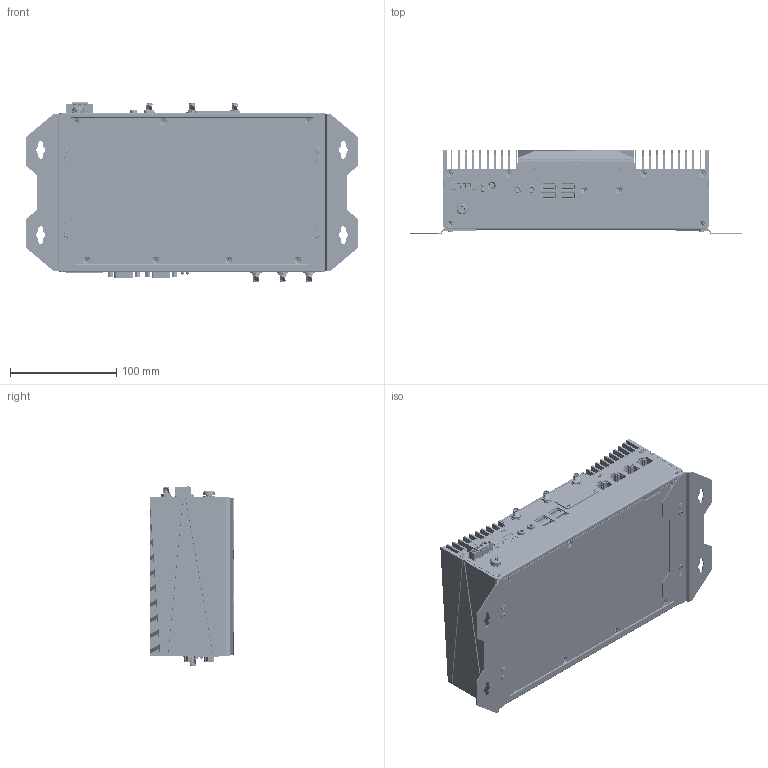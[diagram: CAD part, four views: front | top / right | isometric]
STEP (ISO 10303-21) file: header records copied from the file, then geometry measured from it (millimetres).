
FILE_DESCRIPTION((''),'2;1');
FILE_NAME('V2403C','2021-10-01T11:12:49',('VicWM_Chen'),('PTC'),'CREO PARAMETRIC BY PTC INC, 2018020','CREO PARAMETRIC BY PTC INC, 2018020','');
FILE_SCHEMA(('AUTOMOTIVE_DESIGN { 1 0 10303 214 1 1 1 1 }'));
Products named in the file (1): V2403C
Bounding box: 311.8 x 79.49 x 168.45 mm (x, y, z)
Volume: 623392.8 mm3; surface area: 568655.7 mm2
Topology: 25 solids, 62 shells, 12833 faces, 34549 edges, 22244 vertices
Faces by surface type: plane 7150, cylinder 4092, bspline 523, torus 447, cone 430, sphere 163, extrusion 28
Entity records: 585599 total; most frequent: CARTESIAN_POINT 198186, ORIENTED_EDGE 68930, DIRECTION 60514, EDGE_CURVE 34465, VERTEX_POINT 22317, VECTOR 22278, LINE 22250, AXIS2_PLACEMENT_3D 19118
